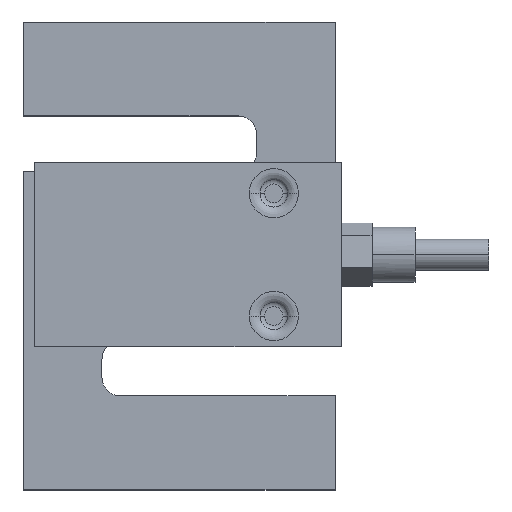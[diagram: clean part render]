
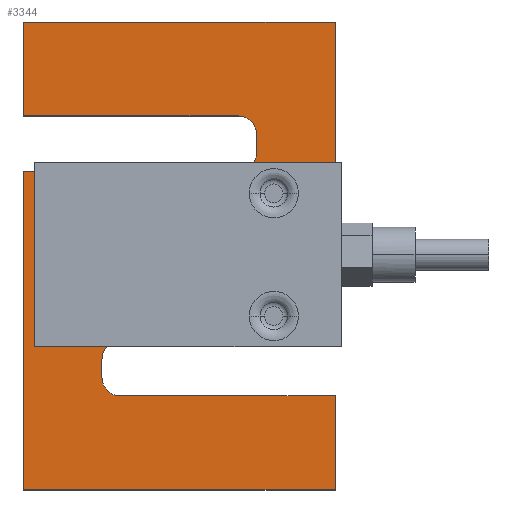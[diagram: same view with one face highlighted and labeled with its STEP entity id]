
A CAD part, top view. The second image highlights one B-rep face of the part: STEP entity #3344.
In plain terms, the highlighted planar face has unit normal (0, 0, 1).
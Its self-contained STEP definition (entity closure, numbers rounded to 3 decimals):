
#8 = DIRECTION ( 'NONE',  ( 0., -1., 0. ) ) ;
#44 = CARTESIAN_POINT ( 'NONE',  ( -12.637, -12.589, 34.221 ) ) ;
#110 = LINE ( 'NONE', #1952, #3216 ) ;
#111 = VECTOR ( 'NONE', #1061, 1000. ) ;
#138 = ORIENTED_EDGE ( 'NONE', *, *, #1230, .T. ) ;
#169 = EDGE_CURVE ( 'NONE', #2712, #3345, #3390, .T. ) ;
#210 = EDGE_CURVE ( 'NONE', #3345, #3389, #3083, .T. ) ;
#220 = DIRECTION ( 'NONE',  ( 0., -1., 0. ) ) ;
#289 = ORIENTED_EDGE ( 'NONE', *, *, #645, .T. ) ;
#303 = VECTOR ( 'NONE', #2222, 1000. ) ;
#312 = EDGE_CURVE ( 'NONE', #3279, #866, #3635, .T. ) ;
#351 = ORIENTED_EDGE ( 'NONE', *, *, #1879, .T. ) ;
#379 = CIRCLE ( 'NONE', #431, 3. ) ;
#431 = AXIS2_PLACEMENT_3D ( 'NONE', #1770, #2048, #1734 ) ;
#434 = EDGE_CURVE ( 'NONE', #3643, #3887, #2683, .T. ) ;
#473 = VECTOR ( 'NONE', #2769, 1000. ) ;
#477 = CARTESIAN_POINT ( 'NONE',  ( 3.163, 5.711, 34.221 ) ) ;
#484 = ORIENTED_EDGE ( 'NONE', *, *, #312, .T. ) ;
#520 = VERTEX_POINT ( 'NONE', #2612 ) ;
#577 = LINE ( 'NONE', #2409, #473 ) ;
#645 = EDGE_CURVE ( 'NONE', #658, #3643, #1985, .T. ) ;
#658 = VERTEX_POINT ( 'NONE', #2382 ) ;
#700 = VECTOR ( 'NONE', #220, 1000. ) ;
#714 = ORIENTED_EDGE ( 'NONE', *, *, #2504, .T. ) ;
#725 = CARTESIAN_POINT ( 'NONE',  ( 38.163, -12.589, 34.221 ) ) ;
#792 = ORIENTED_EDGE ( 'NONE', *, *, #210, .T. ) ;
#795 = DIRECTION ( 'NONE',  ( -1., 0., 0. ) ) ;
#830 = EDGE_CURVE ( 'NONE', #3289, #3279, #2148, .T. ) ;
#866 = VERTEX_POINT ( 'NONE', #4022 ) ;
#930 = EDGE_CURVE ( 'NONE', #3887, #1927, #577, .T. ) ;
#1034 = CARTESIAN_POINT ( 'NONE',  ( 3.163, 8.711, 34.221 ) ) ;
#1038 = EDGE_CURVE ( 'NONE', #1478, #3289, #3362, .T. ) ;
#1061 = DIRECTION ( 'NONE',  ( 1., 0., 0. ) ) ;
#1104 = VERTEX_POINT ( 'NONE', #3355 ) ;
#1132 = CARTESIAN_POINT ( 'NONE',  ( 38.163, 63.611, 34.221 ) ) ;
#1184 = CARTESIAN_POINT ( 'NONE',  ( -12.637, 63.611, 34.221 ) ) ;
#1198 = DIRECTION ( 'NONE',  ( -1., 0., 0. ) ) ;
#1215 = DIRECTION ( 'NONE',  ( 0., 0., -1. ) ) ;
#1230 = EDGE_CURVE ( 'NONE', #3389, #3518, #3153, .T. ) ;
#1272 = CARTESIAN_POINT ( 'NONE',  ( -12.637, 48.311, 34.221 ) ) ;
#1350 = CARTESIAN_POINT ( 'NONE',  ( -12.637, -12.589, 34.221 ) ) ;
#1361 = CARTESIAN_POINT ( 'NONE',  ( -12.637, 39.311, 34.221 ) ) ;
#1374 = DIRECTION ( 'NONE',  ( 0., -1., 0. ) ) ;
#1376 = LINE ( 'NONE', #44, #111 ) ;
#1426 = DIRECTION ( 'NONE',  ( 0., 0., -1. ) ) ;
#1464 = AXIS2_PLACEMENT_3D ( 'NONE', #1851, #1215, #1477 ) ;
#1466 = VECTOR ( 'NONE', #3291, 1000. ) ;
#1477 = DIRECTION ( 'NONE',  ( -1., 0., 0. ) ) ;
#1478 = VERTEX_POINT ( 'NONE', #2349 ) ;
#1530 = VERTEX_POINT ( 'NONE', #3304 ) ;
#1547 = ORIENTED_EDGE ( 'NONE', *, *, #1038, .T. ) ;
#1578 = CARTESIAN_POINT ( 'NONE',  ( 0.163, 8.711, 34.221 ) ) ;
#1579 = CARTESIAN_POINT ( 'NONE',  ( 0.163, 5.711, 34.221 ) ) ;
#1659 = DIRECTION ( 'NONE',  ( 0., 0., -1. ) ) ;
#1696 = CARTESIAN_POINT ( 'NONE',  ( 3.163, 11.711, 34.221 ) ) ;
#1734 = DIRECTION ( 'NONE',  ( -1., 0., 0. ) ) ;
#1755 = VERTEX_POINT ( 'NONE', #1350 ) ;
#1770 = CARTESIAN_POINT ( 'NONE',  ( 22.363, 45.311, 34.221 ) ) ;
#1809 = CARTESIAN_POINT ( 'NONE',  ( -12.637, 63.611, 34.221 ) ) ;
#1815 = AXIS2_PLACEMENT_3D ( 'NONE', #1034, #1659, #3877 ) ;
#1851 = CARTESIAN_POINT ( 'NONE',  ( 22.363, 45.311, 34.221 ) ) ;
#1856 = CARTESIAN_POINT ( 'NONE',  ( 22.363, 42.311, 34.221 ) ) ;
#1879 = EDGE_CURVE ( 'NONE', #1755, #1530, #1376, .T. ) ;
#1902 = EDGE_CURVE ( 'NONE', #520, #1104, #2023, .T. ) ;
#1927 = VERTEX_POINT ( 'NONE', #1361 ) ;
#1952 = CARTESIAN_POINT ( 'NONE',  ( -12.637, 39.311, 34.221 ) ) ;
#1953 = EDGE_CURVE ( 'NONE', #866, #658, #379, .T. ) ;
#1974 = CARTESIAN_POINT ( 'NONE',  ( 0.163, 8.711, 34.221 ) ) ;
#1985 = LINE ( 'NONE', #3889, #2739 ) ;
#2023 = LINE ( 'NONE', #1696, #1466 ) ;
#2048 = DIRECTION ( 'NONE',  ( 0., 0., -1. ) ) ;
#2065 = AXIS2_PLACEMENT_3D ( 'NONE', #477, #1426, #795 ) ;
#2114 = VECTOR ( 'NONE', #3906, 1000. ) ;
#2148 = LINE ( 'NONE', #1809, #700 ) ;
#2214 = DIRECTION ( 'NONE',  ( 1., 0., 0. ) ) ;
#2222 = DIRECTION ( 'NONE',  ( 0., 1., 0. ) ) ;
#2349 = CARTESIAN_POINT ( 'NONE',  ( 38.163, 63.611, 34.221 ) ) ;
#2352 = EDGE_CURVE ( 'NONE', #1104, #1478, #2367, .T. ) ;
#2367 = LINE ( 'NONE', #3736, #2407 ) ;
#2382 = CARTESIAN_POINT ( 'NONE',  ( 25.363, 45.311, 34.221 ) ) ;
#2386 = DIRECTION ( 'NONE',  ( -1., 0., 0. ) ) ;
#2395 = ORIENTED_EDGE ( 'NONE', *, *, #1953, .T. ) ;
#2407 = VECTOR ( 'NONE', #2835, 1000. ) ;
#2409 = CARTESIAN_POINT ( 'NONE',  ( 22.363, 39.311, 34.221 ) ) ;
#2504 = EDGE_CURVE ( 'NONE', #1530, #2712, #3805, .T. ) ;
#2517 = DIRECTION ( 'NONE',  ( 0., 0., -1. ) ) ;
#2588 = EDGE_CURVE ( 'NONE', #3518, #520, #3314, .T. ) ;
#2612 = CARTESIAN_POINT ( 'NONE',  ( 3.163, 11.711, 34.221 ) ) ;
#2683 = CIRCLE ( 'NONE', #3135, 3. ) ;
#2712 = VERTEX_POINT ( 'NONE', #4039 ) ;
#2739 = VECTOR ( 'NONE', #1374, 1000. ) ;
#2741 = ORIENTED_EDGE ( 'NONE', *, *, #169, .T. ) ;
#2769 = DIRECTION ( 'NONE',  ( -1., 0., 0. ) ) ;
#2779 = VECTOR ( 'NONE', #2214, 1000. ) ;
#2835 = DIRECTION ( 'NONE',  ( 0., 1., 0. ) ) ;
#2871 = ORIENTED_EDGE ( 'NONE', *, *, #930, .T. ) ;
#2885 = ORIENTED_EDGE ( 'NONE', *, *, #434, .T. ) ;
#2979 = CARTESIAN_POINT ( 'NONE',  ( 25.363, 42.311, 34.221 ) ) ;
#3000 = CARTESIAN_POINT ( 'NONE',  ( 22.363, 39.311, 34.221 ) ) ;
#3034 = ORIENTED_EDGE ( 'NONE', *, *, #3785, .T. ) ;
#3083 = CIRCLE ( 'NONE', #2065, 3. ) ;
#3128 = PLANE ( 'NONE',  #1464 ) ;
#3135 = AXIS2_PLACEMENT_3D ( 'NONE', #1856, #2517, #4057 ) ;
#3153 = LINE ( 'NONE', #1578, #303 ) ;
#3182 = VECTOR ( 'NONE', #2386, 1000. ) ;
#3194 = FACE_OUTER_BOUND ( 'NONE', #3630, .T. ) ;
#3216 = VECTOR ( 'NONE', #8, 1000. ) ;
#3279 = VERTEX_POINT ( 'NONE', #4036 ) ;
#3289 = VERTEX_POINT ( 'NONE', #1184 ) ;
#3291 = DIRECTION ( 'NONE',  ( 1., 0., 0. ) ) ;
#3304 = CARTESIAN_POINT ( 'NONE',  ( 38.163, -12.589, 34.221 ) ) ;
#3314 = CIRCLE ( 'NONE', #1815, 3. ) ;
#3344 = ADVANCED_FACE ( 'NONE', ( #3194 ), #3128, .F. ) ;
#3345 = VERTEX_POINT ( 'NONE', #3396 ) ;
#3355 = CARTESIAN_POINT ( 'NONE',  ( 38.163, 11.711, 34.221 ) ) ;
#3362 = LINE ( 'NONE', #1132, #3853 ) ;
#3389 = VERTEX_POINT ( 'NONE', #1579 ) ;
#3390 = LINE ( 'NONE', #3689, #3182 ) ;
#3396 = CARTESIAN_POINT ( 'NONE',  ( 3.163, 2.711, 34.221 ) ) ;
#3503 = ORIENTED_EDGE ( 'NONE', *, *, #2352, .T. ) ;
#3518 = VERTEX_POINT ( 'NONE', #1974 ) ;
#3630 = EDGE_LOOP ( 'NONE', ( #1547, #3963, #484, #2395, #289, #2885, #2871, #3034, #351, #714, #2741, #792, #138, #3863, #3749, #3503 ) ) ;
#3635 = LINE ( 'NONE', #1272, #2779 ) ;
#3643 = VERTEX_POINT ( 'NONE', #2979 ) ;
#3689 = CARTESIAN_POINT ( 'NONE',  ( 38.163, 2.711, 34.221 ) ) ;
#3736 = CARTESIAN_POINT ( 'NONE',  ( 38.163, 11.711, 34.221 ) ) ;
#3749 = ORIENTED_EDGE ( 'NONE', *, *, #1902, .T. ) ;
#3785 = EDGE_CURVE ( 'NONE', #1927, #1755, #110, .T. ) ;
#3805 = LINE ( 'NONE', #725, #2114 ) ;
#3853 = VECTOR ( 'NONE', #1198, 1000. ) ;
#3863 = ORIENTED_EDGE ( 'NONE', *, *, #2588, .T. ) ;
#3877 = DIRECTION ( 'NONE',  ( -1., 0., 0. ) ) ;
#3887 = VERTEX_POINT ( 'NONE', #3000 ) ;
#3889 = CARTESIAN_POINT ( 'NONE',  ( 25.363, 45.311, 34.221 ) ) ;
#3906 = DIRECTION ( 'NONE',  ( 0., 1., 0. ) ) ;
#3963 = ORIENTED_EDGE ( 'NONE', *, *, #830, .T. ) ;
#4022 = CARTESIAN_POINT ( 'NONE',  ( 22.363, 48.311, 34.221 ) ) ;
#4036 = CARTESIAN_POINT ( 'NONE',  ( -12.637, 48.311, 34.221 ) ) ;
#4039 = CARTESIAN_POINT ( 'NONE',  ( 38.163, 2.711, 34.221 ) ) ;
#4057 = DIRECTION ( 'NONE',  ( -1., 0., 0. ) ) ;
